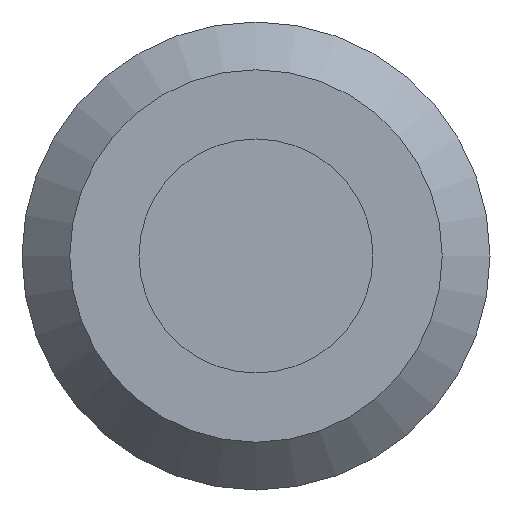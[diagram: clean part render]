
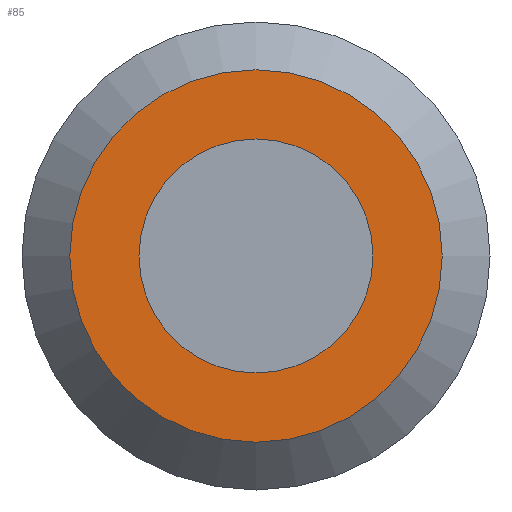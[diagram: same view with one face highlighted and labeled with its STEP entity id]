
A CAD part, front view. The second image highlights one B-rep face of the part: STEP entity #85.
In plain terms, the highlighted planar face has unit normal (0, -1, 0).
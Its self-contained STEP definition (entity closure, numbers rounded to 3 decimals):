
#85 = ADVANCED_FACE( '', ( #112, #113 ), #114, .F. );
#112 = FACE_BOUND( '', #146, .T. );
#113 = FACE_OUTER_BOUND( '', #147, .T. );
#114 = PLANE( '', #148 );
#146 = EDGE_LOOP( '', ( #228 ) );
#147 = EDGE_LOOP( '', ( #229 ) );
#148 = AXIS2_PLACEMENT_3D( '', #230, #231, #232 );
#228 = ORIENTED_EDGE( '', *, *, #268, .F. );
#229 = ORIENTED_EDGE( '', *, *, #269, .T. );
#230 = CARTESIAN_POINT( '', ( 1.194, 0.8, 0. ) );
#231 = DIRECTION( '', ( 0., 1., 0. ) );
#232 = DIRECTION( '', ( 0., 0., 1. ) );
#268 = EDGE_CURVE( '', #306, #306, #307, .T. );
#269 = EDGE_CURVE( '', #308, #308, #309, .T. );
#306 = VERTEX_POINT( '', #366 );
#307 = CIRCLE( '', #367, 0.75 );
#308 = VERTEX_POINT( '', #368 );
#309 = CIRCLE( '', #369, 1.194 );
#366 = CARTESIAN_POINT( '', ( 0., 0.8, -0.75 ) );
#367 = AXIS2_PLACEMENT_3D( '', #398, #399, #400 );
#368 = CARTESIAN_POINT( '', ( 0., 0.8, -1.194 ) );
#369 = AXIS2_PLACEMENT_3D( '', #401, #402, #403 );
#398 = CARTESIAN_POINT( '', ( 0., 0.8, 0. ) );
#399 = DIRECTION( '', ( 0., -1., 0. ) );
#400 = DIRECTION( '', ( 0., 0., -1. ) );
#401 = CARTESIAN_POINT( '', ( 0., 0.8, 0. ) );
#402 = DIRECTION( '', ( 0., -1., 0. ) );
#403 = DIRECTION( '', ( 0., 0., -1. ) );
